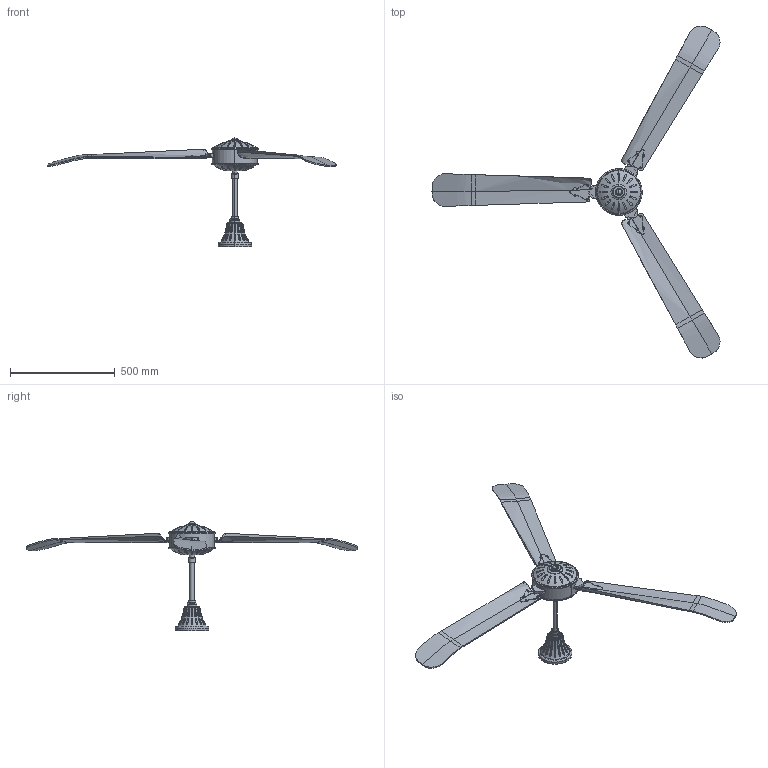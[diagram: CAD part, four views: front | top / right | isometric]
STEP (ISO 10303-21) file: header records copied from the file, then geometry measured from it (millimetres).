
FILE_DESCRIPTION(/* description */ (''),/* implementation_level */ '2;1');
FILE_NAME(/* name */ 'C:\Users\FrancoSartori\Documents\FARO\01_En Proceso\000_SOLICITUD INFO SIN PROCESAR\00_AOBA\03_Publicación\33349.stp',/* time_stamp */ '2022-09-20T12:10:58+02:00',/* author */ ('FrancoSartori'),/* organization */ (''),/* preprocessor_version */ 'ST-DEVELOPER v19.2',/* originating_system */ 'AutoCAD Mechanical',/* authorisation */ '');
FILE_SCHEMA (('AUTOMOTIVE_DESIGN { 1 0 10303 214 3 1 1 }'));
Products named in the file (2): Product; AOBA_ - fan-484535-Export
Assembly tree (1 placements, depth 2):
  Product
    AOBA_ - fan-484535-Export
Bounding box: 1372.52 x 1582.16 x 520 mm (x, y, z)
Volume: 5042762.2 mm3; surface area: 1240323.5 mm2
Topology: 43 solids, 43 shells, 876 faces, 2269 edges, 1490 vertices
Faces by surface type: plane 422, cylinder 317, torus 70, bspline 43, sphere 24
Entity records: 45824 total; most frequent: CARTESIAN_POINT 25755, ORIENTED_EDGE 4508, DIRECTION 3393, EDGE_CURVE 2254, VERTEX_POINT 1490, AXIS2_PLACEMENT_3D 1174, LINE 1045, VECTOR 1045
